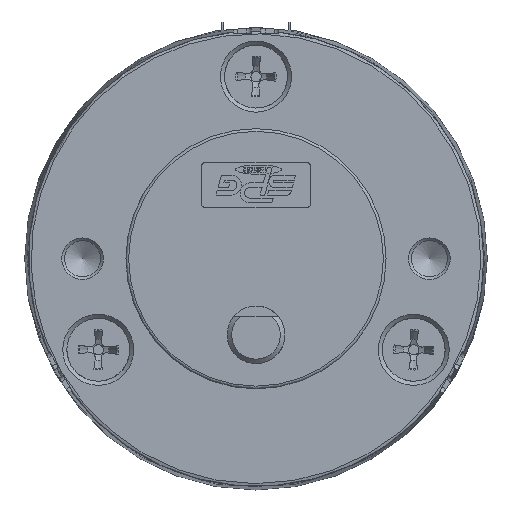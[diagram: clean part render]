
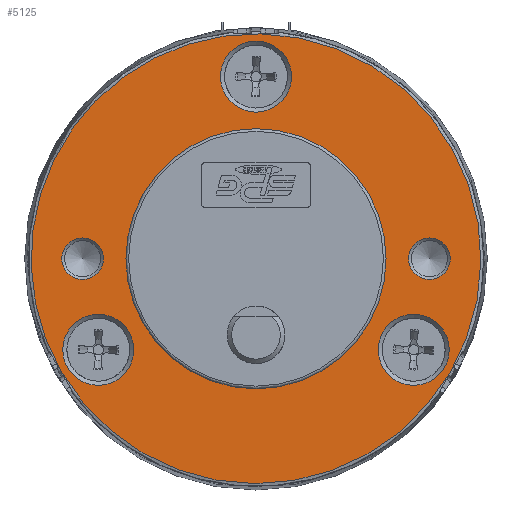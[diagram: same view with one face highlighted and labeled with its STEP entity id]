
A CAD part, front view. The second image highlights one B-rep face of the part: STEP entity #5125.
In plain terms, the highlighted planar face has unit normal (0, -1, 0).
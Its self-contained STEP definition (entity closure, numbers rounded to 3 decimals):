
#5039=CARTESIAN_POINT('',(-17.918,19.05,10.37));
#5040=VERTEX_POINT('',#5039);
#5041=CARTESIAN_POINT('',(-20.199,19.05,10.37));
#5042=DIRECTION('',(0.0,-1.0,0.0));
#5043=DIRECTION('',(-1.0,0.0,0.0));
#5044=AXIS2_PLACEMENT_3D('',#5041,#5042,#5043);
#5045=CIRCLE('',#5044,2.281);
#5046=EDGE_CURVE('',#5040,#5040,#5045,.T.);
#5051=CARTESIAN_POINT('',(-1.149,19.05,10.37));
#5052=DIRECTION('',(0.0,1.0,0.0));
#5053=DIRECTION('',(0.0,0.0,1.0));
#5054=AXIS2_PLACEMENT_3D('',#5051,#5052,#5053);
#5055=PLANE('',#5054);
#5056=CARTESIAN_POINT('',(-22.543,19.05,-1.982));
#5057=VERTEX_POINT('',#5056);
#5058=CARTESIAN_POINT('',(-1.149,19.05,10.37));
#5059=DIRECTION('',(0.0,1.0,0.0));
#5060=DIRECTION('',(0.866,0.0,0.5));
#5061=AXIS2_PLACEMENT_3D('',#5058,#5059,#5060);
#5062=CIRCLE('',#5061,24.704);
#5063=EDGE_CURVE('',#5057,#5057,#5062,.T.);
#5064=ORIENTED_EDGE('',*,*,#5063,.F.);
#5065=EDGE_LOOP('',(#5064));
#5066=FACE_OUTER_BOUND('',#5065,.T.);
#5067=CARTESIAN_POINT('',(20.182,19.05,10.37));
#5068=VERTEX_POINT('',#5067);
#5069=CARTESIAN_POINT('',(17.901,19.05,10.37));
#5070=DIRECTION('',(0.0,-1.0,0.0));
#5071=DIRECTION('',(-1.0,0.0,0.0));
#5072=AXIS2_PLACEMENT_3D('',#5069,#5070,#5071);
#5073=CIRCLE('',#5072,2.281);
#5074=EDGE_CURVE('',#5068,#5068,#5073,.T.);
#5075=ORIENTED_EDGE('',*,*,#5074,.F.);
#5076=EDGE_LOOP('',(#5075));
#5077=FACE_BOUND('',#5076,.T.);
#5078=CARTESIAN_POINT('',(13.139,19.05,10.37));
#5079=VERTEX_POINT('',#5078);
#5080=CARTESIAN_POINT('',(-1.149,19.05,10.37));
#5081=DIRECTION('',(0.0,1.0,0.0));
#5082=DIRECTION('',(-1.0,0.0,0.0));
#5083=AXIS2_PLACEMENT_3D('',#5080,#5081,#5082);
#5084=CIRCLE('',#5083,14.287);
#5085=EDGE_CURVE('',#5079,#5079,#5084,.T.);
#5086=ORIENTED_EDGE('',*,*,#5085,.T.);
#5087=EDGE_LOOP('',(#5086));
#5088=FACE_BOUND('',#5087,.T.);
#5089=CARTESIAN_POINT('',(-1.149,19.05,34.27));
#5090=VERTEX_POINT('',#5089);
#5091=CARTESIAN_POINT('',(-1.149,19.05,30.37));
#5092=DIRECTION('',(0.0,1.0,0.0));
#5093=DIRECTION('',(0.0,0.0,1.0));
#5094=AXIS2_PLACEMENT_3D('',#5091,#5092,#5093);
#5095=CIRCLE('',#5094,3.9);
#5096=EDGE_CURVE('',#5090,#5090,#5095,.T.);
#5097=ORIENTED_EDGE('',*,*,#5096,.T.);
#5098=EDGE_LOOP('',(#5097));
#5099=FACE_BOUND('',#5098,.T.);
#5100=CARTESIAN_POINT('',(-21.847,19.05,-1.58));
#5101=VERTEX_POINT('',#5100);
#5102=CARTESIAN_POINT('',(-18.469,19.05,0.37));
#5103=DIRECTION('',(0.0,1.0,0.0));
#5104=DIRECTION('',(-0.866,0.0,-0.5));
#5105=AXIS2_PLACEMENT_3D('',#5102,#5103,#5104);
#5106=CIRCLE('',#5105,3.9);
#5107=EDGE_CURVE('',#5101,#5101,#5106,.T.);
#5108=ORIENTED_EDGE('',*,*,#5107,.T.);
#5109=EDGE_LOOP('',(#5108));
#5110=FACE_BOUND('',#5109,.T.);
#5111=CARTESIAN_POINT('',(19.549,19.05,-1.58));
#5112=VERTEX_POINT('',#5111);
#5113=CARTESIAN_POINT('',(16.172,19.05,0.37));
#5114=DIRECTION('',(0.0,1.0,0.0));
#5115=DIRECTION('',(0.866,0.0,-0.5));
#5116=AXIS2_PLACEMENT_3D('',#5113,#5114,#5115);
#5117=CIRCLE('',#5116,3.9);
#5118=EDGE_CURVE('',#5112,#5112,#5117,.T.);
#5119=ORIENTED_EDGE('',*,*,#5118,.T.);
#5120=EDGE_LOOP('',(#5119));
#5121=FACE_BOUND('',#5120,.T.);
#5122=ORIENTED_EDGE('',*,*,#5046,.F.);
#5123=EDGE_LOOP('',(#5122));
#5124=FACE_BOUND('',#5123,.T.);
#5125=ADVANCED_FACE('',(#5066,#5077,#5088,#5099,#5110,#5121,#5124),#5055,.F.);
